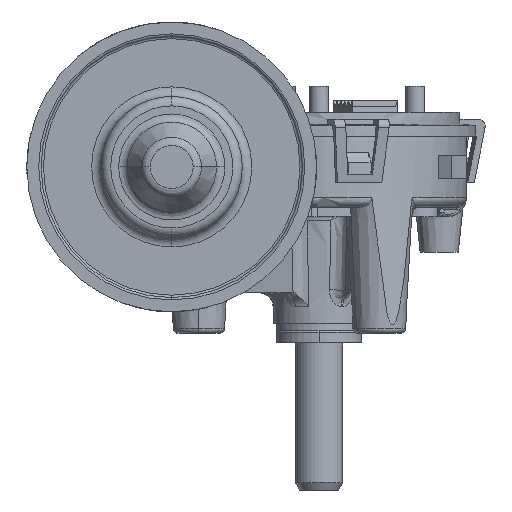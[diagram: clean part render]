
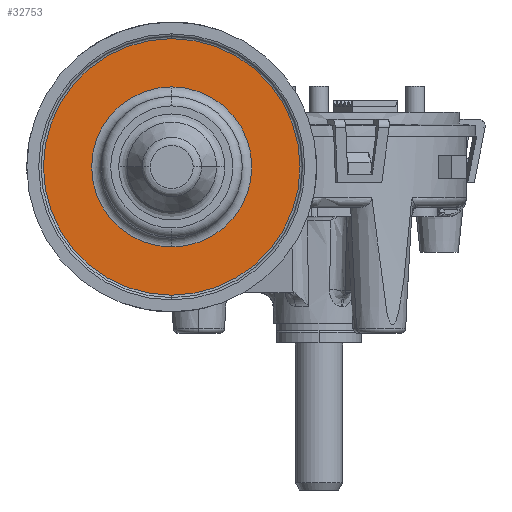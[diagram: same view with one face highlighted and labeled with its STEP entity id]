
A CAD part, front view. The second image highlights one B-rep face of the part: STEP entity #32753.
In plain terms, the highlighted planar face has unit normal (0, -1, 0).
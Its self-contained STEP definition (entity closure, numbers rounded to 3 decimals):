
#8313=CARTESIAN_POINT('',(0.,2.7,0.));
#8314=DIRECTION('',(0.,1.,0.));
#8315=DIRECTION('',(0.,0.,-1.));
#8316=AXIS2_PLACEMENT_3D('',#8313,#8314,#8315);
#8318=CARTESIAN_POINT('',(0.,2.7,0.));
#8319=DIRECTION('',(0.,1.,0.));
#8320=DIRECTION('',(0.,0.,1.));
#8321=AXIS2_PLACEMENT_3D('',#8318,#8319,#8320);
#8323=CARTESIAN_POINT('',(0.,2.7,0.));
#8324=DIRECTION('',(0.,-1.,0.));
#8325=DIRECTION('',(0.,0.,1.));
#8326=AXIS2_PLACEMENT_3D('',#8323,#8324,#8325);
#8328=CARTESIAN_POINT('',(0.,2.7,0.));
#8329=DIRECTION('',(0.,-1.,0.));
#8330=DIRECTION('',(0.,0.,-1.));
#8331=AXIS2_PLACEMENT_3D('',#8328,#8329,#8330);
#15886=CARTESIAN_POINT('',(0.,2.7,16.85));
#15887=CARTESIAN_POINT('',(0.,2.7,-16.85));
#15888=VERTEX_POINT('',#15886);
#15889=VERTEX_POINT('',#15887);
#15918=CARTESIAN_POINT('',(0.,2.7,-27.));
#15919=CARTESIAN_POINT('',(0.,2.7,27.));
#15920=VERTEX_POINT('',#15918);
#15921=VERTEX_POINT('',#15919);
#32737=CARTESIAN_POINT('',(0.,2.7,0.));
#32738=DIRECTION('',(0.,-1.,0.));
#32739=DIRECTION('',(0.,0.,-1.));
#32740=AXIS2_PLACEMENT_3D('',#32737,#32738,#32739);
#32741=PLANE('52',#32740);
#32742=ORIENTED_EDGE('2388',*,*,#32720,.T.);
#32744=ORIENTED_EDGE('2390',*,*,#32743,.T.);
#32745=EDGE_LOOP('52',(#32742,#32744));
#32746=FACE_OUTER_BOUND('52',#32745,.F.);
#32748=ORIENTED_EDGE('2360',*,*,#32747,.T.);
#32750=ORIENTED_EDGE('2362',*,*,#32749,.T.);
#32751=EDGE_LOOP('52',(#32748,#32750));
#32752=FACE_BOUND('52',#32751,.F.);
#32753=ADVANCED_FACE('52',(#32746,#32752),#32741,.T.);
#8317=CIRCLE('2388',#8316,27.);
#8322=CIRCLE('2390',#8321,27.);
#8327=CIRCLE('2360',#8326,16.85);
#8332=CIRCLE('2362',#8331,16.85);
#32720=EDGE_CURVE('2388',#15920,#15921,#8317,.T.);
#32743=EDGE_CURVE('2390',#15921,#15920,#8322,.T.);
#32747=EDGE_CURVE('2360',#15888,#15889,#8327,.T.);
#32749=EDGE_CURVE('2362',#15889,#15888,#8332,.T.);
